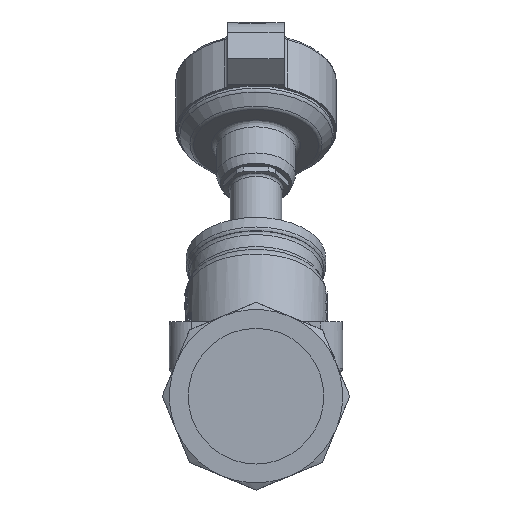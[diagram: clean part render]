
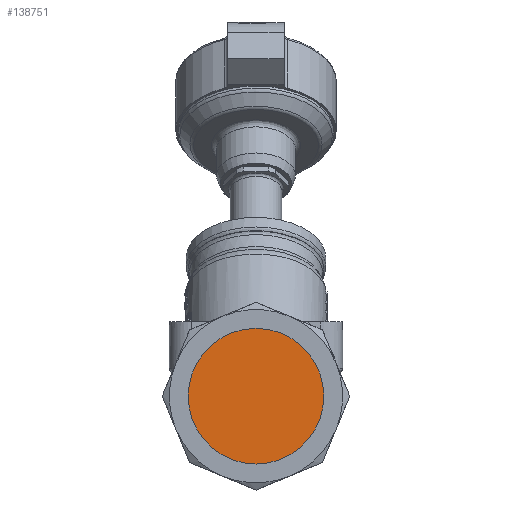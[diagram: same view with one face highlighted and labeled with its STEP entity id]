
A CAD part, left-side view. The second image highlights one B-rep face of the part: STEP entity #138751.
In plain terms, the highlighted free-form (B-spline) face has degree [1, 1] with [2, 2] control points.
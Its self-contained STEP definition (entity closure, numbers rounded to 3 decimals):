
#138731=CARTESIAN_POINT('',(-130.1,-27.,0.));
#138732=VERTEX_POINT('',#138731);
#138733=CARTESIAN_POINT('',(-130.1,0.,0.));
#138734=DIRECTION('',(-1.0,0.0,0.0));
#138735=DIRECTION('',(0.0,-1.0,0.0));
#138736=AXIS2_PLACEMENT_3D('',#138733,#138734,#138735);
#138737=CIRCLE('',#138736,27.0);
#138738=EDGE_CURVE('',#138732,#138732,#138737,.T.);
#138743=CARTESIAN_POINT('',(-130.1,27.,27.));
#138744=CARTESIAN_POINT('',(-130.1,-27.,27.));
#138745=CARTESIAN_POINT('',(-130.1,27.,-27.));
#138746=CARTESIAN_POINT('',(-130.1,-27.,-27.));
#138747=B_SPLINE_SURFACE_WITH_KNOTS('',1,1,((#138743,#138745),(#138744,#138746)),.UNSPECIFIED.,.F.,.F.,.U.,(2,2),(2,2),(0.0,54.0),(0.0,54.0),.UNSPECIFIED.);
#138748=ORIENTED_EDGE('',*,*,#138738,.T.);
#138749=EDGE_LOOP('',(#138748));
#138750=FACE_OUTER_BOUND('',#138749,.T.);
#138751=ADVANCED_FACE('',(#138750),#138747,.F.);
